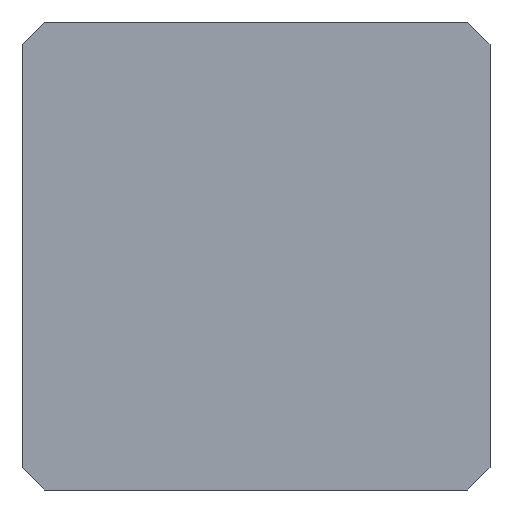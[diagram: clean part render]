
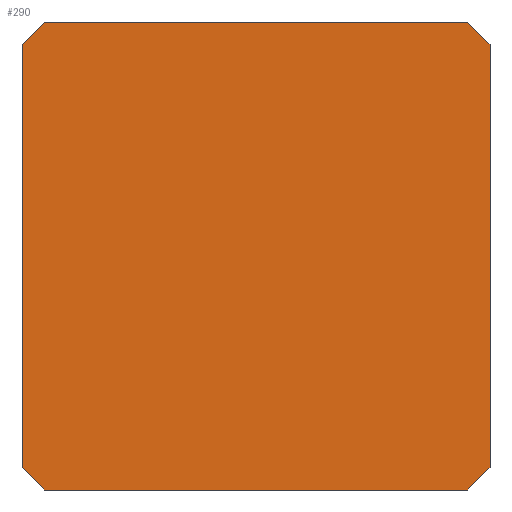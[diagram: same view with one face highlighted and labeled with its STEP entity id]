
A CAD part, front view. The second image highlights one B-rep face of the part: STEP entity #290.
In plain terms, the highlighted planar face has unit normal (0, -1, 0).
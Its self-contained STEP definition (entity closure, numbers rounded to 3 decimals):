
#74=CARTESIAN_POINT('',(-0.,0.,-24.2));
#75=VERTEX_POINT('',#74);
#82=CARTESIAN_POINT('',(0.,0.,-1.2));
#83=VERTEX_POINT('',#82);
#84=CARTESIAN_POINT('',(0.,0.,-24.2));
#85=DIRECTION('',(0.,0.,1.));
#86=VECTOR('',#85,23.);
#87=LINE('',#84,#86);
#88=EDGE_CURVE('',#75,#83,#87,.T.);
#114=CARTESIAN_POINT('',(1.2,0.,0.));
#115=VERTEX_POINT('',#114);
#122=CARTESIAN_POINT('',(24.2,0.,0.));
#123=VERTEX_POINT('',#122);
#124=CARTESIAN_POINT('',(1.2,0.,0.));
#125=DIRECTION('',(1.,0.,0.));
#126=VECTOR('',#125,23.);
#127=LINE('',#124,#126);
#128=EDGE_CURVE('',#115,#123,#127,.T.);
#154=CARTESIAN_POINT('',(25.4,0.,-1.2));
#155=VERTEX_POINT('',#154);
#162=CARTESIAN_POINT('',(25.4,0.,-24.2));
#163=VERTEX_POINT('',#162);
#164=CARTESIAN_POINT('',(25.4,0.,-1.2));
#165=DIRECTION('',(0.,0.,-1.));
#166=VECTOR('',#165,23.);
#167=LINE('',#164,#166);
#168=EDGE_CURVE('',#155,#163,#167,.T.);
#184=CARTESIAN_POINT('',(24.2,0.,-25.4));
#185=VERTEX_POINT('',#184);
#186=CARTESIAN_POINT('',(1.2,0.,-25.4));
#187=VERTEX_POINT('',#186);
#188=CARTESIAN_POINT('',(24.2,0.,-25.4));
#189=DIRECTION('',(-1.,0.,0.));
#190=VECTOR('',#189,23.);
#191=LINE('',#188,#190);
#192=EDGE_CURVE('',#185,#187,#191,.T.);
#255=CARTESIAN_POINT('',(0.,0.,0.));
#256=DIRECTION('',(0.,-1.,0.));
#257=DIRECTION('',(0.,0.,-1.));
#258=AXIS2_PLACEMENT_3D('',#255,#256,#257);
#259=PLANE('',#258);
#260=ORIENTED_EDGE('',*,*,#88,.F.);
#261=CARTESIAN_POINT('',(-0.,0.,-24.2));
#262=DIRECTION('',(0.707,-0.,-0.707));
#263=VECTOR('',#262,1.697);
#264=LINE('',#261,#263);
#265=EDGE_CURVE('',#75,#187,#264,.T.);
#266=ORIENTED_EDGE('',*,*,#265,.T.);
#267=ORIENTED_EDGE('',*,*,#192,.F.);
#268=CARTESIAN_POINT('',(24.2,0.,-25.4));
#269=DIRECTION('',(0.707,-0.,0.707));
#270=VECTOR('',#269,1.697);
#271=LINE('',#268,#270);
#272=EDGE_CURVE('',#185,#163,#271,.T.);
#273=ORIENTED_EDGE('',*,*,#272,.T.);
#274=ORIENTED_EDGE('',*,*,#168,.F.);
#275=CARTESIAN_POINT('',(25.4,0.,-1.2));
#276=DIRECTION('',(-0.707,-0.,0.707));
#277=VECTOR('',#276,1.697);
#278=LINE('',#275,#277);
#279=EDGE_CURVE('',#155,#123,#278,.T.);
#280=ORIENTED_EDGE('',*,*,#279,.T.);
#281=ORIENTED_EDGE('',*,*,#128,.F.);
#282=CARTESIAN_POINT('',(1.2,0.,-0.));
#283=DIRECTION('',(-0.707,-0.,-0.707));
#284=VECTOR('',#283,1.697);
#285=LINE('',#282,#284);
#286=EDGE_CURVE('',#115,#83,#285,.T.);
#287=ORIENTED_EDGE('',*,*,#286,.T.);
#288=EDGE_LOOP('',(#260,#266,#267,#273,#274,#280,#281,#287));
#289=FACE_BOUND('',#288,.T.);
#290=ADVANCED_FACE('',(#289),#259,.T.);
